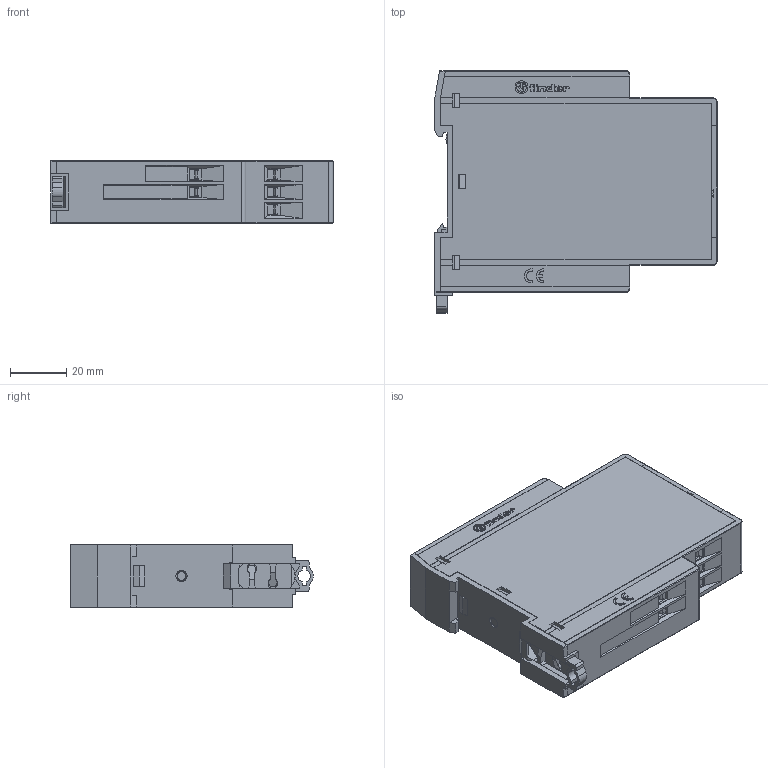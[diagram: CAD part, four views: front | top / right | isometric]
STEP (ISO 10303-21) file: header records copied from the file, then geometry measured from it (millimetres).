
FILE_DESCRIPTION(/* description */ ('Unknown'),/* implementation_level */ '2;1');
FILE_NAME(/* name */ '8352',/* time_stamp */ '2016-12-05T15:09:01+01:00',/* author */ ('Unknown'),/* organization */ ('Unknown'),/* preprocessor_version */ 'ST-DEVELOPER v16.7',/* originating_system */ 'DEX',/* authorisation */ $);
FILE_SCHEMA (('TECHNICAL_DATA_PACKAGING','AUTOMOTIVE_DESIGN {1 0 10303 214 3 1 1}'));
Products named in the file (1): Complessivo 83_02-52
Bounding box: 100.3 x 86.25 x 22.5 mm (x, y, z)
Surface area: 32391.4 mm2 (no closed solid volume)
Topology: 0 solids, 141 shells, 1962 faces, 8027 edges, 6171 vertices
Faces by surface type: plane 1713, cylinder 119, cone 64, torus 30, sphere 22, bspline 14
Full cylindrical faces by diameter (mm): 3 x2, 4.566 x2, 5.1 x11
Entity records: 83061 total; most frequent: CARTESIAN_POINT 18382, DIRECTION 12367, ORIENTED_EDGE 11165, EDGE_CURVE 7978, LINE 7123, VECTOR 7123, VERTEX_POINT 6153, AXIS2_PLACEMENT_3D 2622
